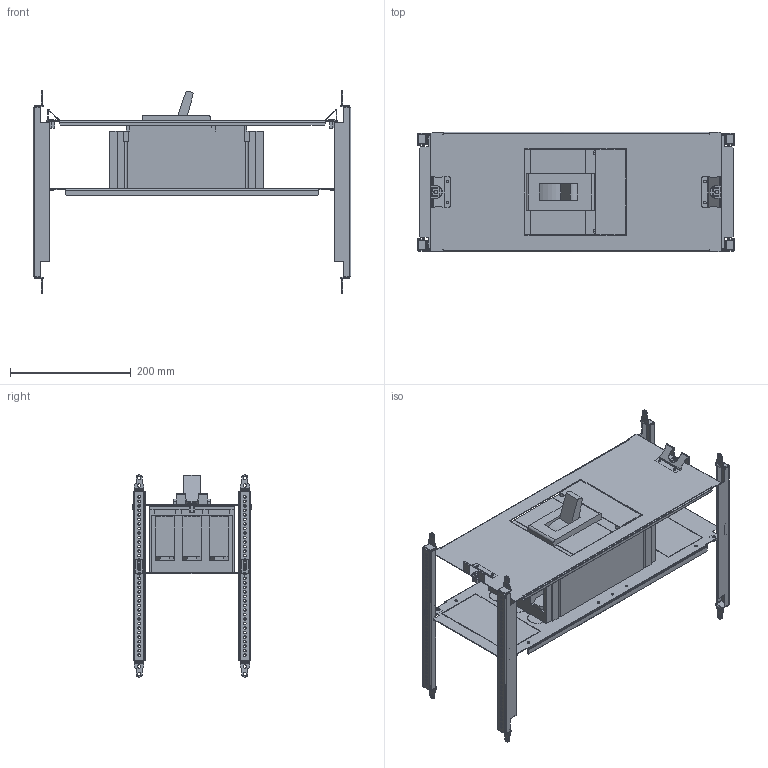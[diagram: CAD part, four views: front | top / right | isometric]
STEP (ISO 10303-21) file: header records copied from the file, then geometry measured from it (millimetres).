
FILE_DESCRIPTION(('CAx-IF Rec.Pracs.---Model Styling and Organization---1.2---2011-12-15','CAx-IF Rec.Pracs.---Geometric and Assembly Validation Properties---4.1---2014-06-16','CAx-IF Rec.Pracs.---PMI Polyline Presentation---2.0---2013-05-24'),'2;1');
FILE_NAME('R5PKIB7H63016 (F).stp','2021-07-29T03:07:43+03:00',(''),(''),'STEP Interface 4.4 by CT CoreTechnologie','3D_Evolution4.4 by CT CoreTechnologie','');
FILE_SCHEMA(('AUTOMOTIVE_DESIGN { 1 0 10303 214 1 1 1 1 }'));
Length unit declared in the file: millimetre
Products named in the file (1): R5PKIB7H63016 (F)
Bounding box: 526 x 198 x 335 mm (x, y, z)
Surface area: 765676.4 mm2 (no closed solid volume)
Topology: 0 solids, 45 shells, 1572 faces, 4614 edges, 3142 vertices
Faces by surface type: plane 868, cylinder 633, bspline 71
Entity records: 54115 total; most frequent: CARTESIAN_POINT 10276, ORIENTED_EDGE 9176, DIRECTION 8962, EDGE_CURVE 4594, VECTOR 3210, LINE 3210, VERTEX_POINT 3144, AXIS2_PLACEMENT_3D 2876
